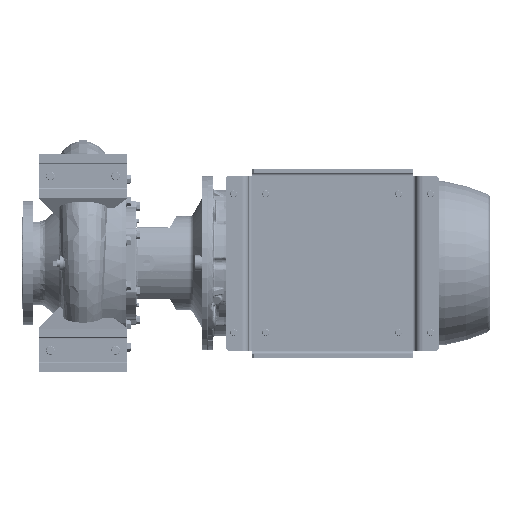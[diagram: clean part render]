
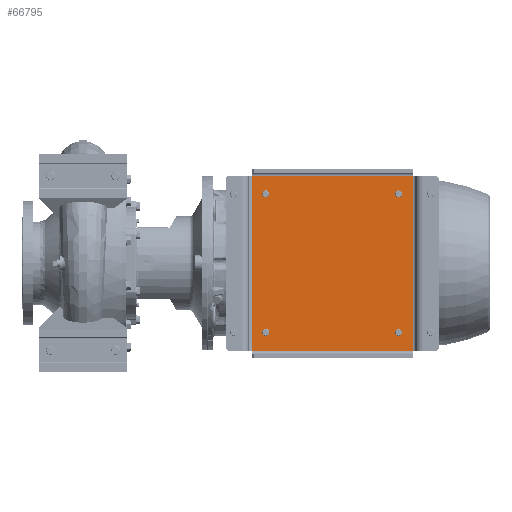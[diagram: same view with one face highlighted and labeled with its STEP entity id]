
A CAD part, front view. The second image highlights one B-rep face of the part: STEP entity #66795.
In plain terms, the highlighted planar face has unit normal (0, -1, 0).
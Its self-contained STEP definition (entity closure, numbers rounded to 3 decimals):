
#1142 = FACE_OUTER_BOUND ( 'NONE', #51474, .T. ) ;
#2143 = AXIS2_PLACEMENT_3D ( 'NONE', #155691, #220284, #22259 ) ;
#3183 = ORIENTED_EDGE ( 'NONE', *, *, #11422, .T. ) ;
#3463 = CIRCLE ( 'NONE', #40952, 8. ) ;
#3988 = LINE ( 'NONE', #93429, #32850 ) ;
#5013 = CARTESIAN_POINT ( 'NONE',  ( 396.5, 71., -384. ) ) ;
#7948 = LINE ( 'NONE', #53405, #277027 ) ;
#9065 = CARTESIAN_POINT ( 'NONE',  ( 91.5, 71., -384. ) ) ;
#10754 = DIRECTION ( 'NONE',  ( 0., 1., 0. ) ) ;
#11422 = EDGE_CURVE ( 'NONE', #232146, #231091, #238858, .T. ) ;
#14833 = DIRECTION ( 'NONE',  ( 0., 0., -1. ) ) ;
#20197 = DIRECTION ( 'NONE',  ( 1., 0., 0. ) ) ;
#22259 = DIRECTION ( 'NONE',  ( 0., 0., -1. ) ) ;
#22339 = ORIENTED_EDGE ( 'NONE', *, *, #261013, .T. ) ;
#23344 = CARTESIAN_POINT ( 'NONE',  ( 396.5, 71., -66. ) ) ;
#29458 = VERTEX_POINT ( 'NONE', #9065 ) ;
#30614 = ORIENTED_EDGE ( 'NONE', *, *, #206395, .T. ) ;
#32850 = VECTOR ( 'NONE', #20197, 1000. ) ;
#36273 = CIRCLE ( 'NONE', #83179, 8. ) ;
#38437 = VERTEX_POINT ( 'NONE', #263984 ) ;
#39024 = CARTESIAN_POINT ( 'NONE',  ( 396.5, 71., -58. ) ) ;
#39657 = CIRCLE ( 'NONE', #2143, 8. ) ;
#40952 = AXIS2_PLACEMENT_3D ( 'NONE', #100919, #103795, #282716 ) ;
#44022 = EDGE_CURVE ( 'NONE', #38437, #59048, #3463, .T. ) ;
#44908 = EDGE_CURVE ( 'NONE', #229506, #73636, #186227, .T. ) ;
#51474 = EDGE_LOOP ( 'NONE', ( #151467, #3183, #70653, #98998 ) ) ;
#53405 = CARTESIAN_POINT ( 'NONE',  ( 429., 71., -16. ) ) ;
#53870 = ORIENTED_EDGE ( 'NONE', *, *, #217844, .T. ) ;
#59048 = VERTEX_POINT ( 'NONE', #222691 ) ;
#59151 = DIRECTION ( 'NONE',  ( 0., 0., -1. ) ) ;
#61185 = ORIENTED_EDGE ( 'NONE', *, *, #275663, .T. ) ;
#62022 = CARTESIAN_POINT ( 'NONE',  ( 396.5, 71., -376. ) ) ;
#65688 = DIRECTION ( 'NONE',  ( 0., 1., 0. ) ) ;
#66795 = ADVANCED_FACE ( 'NONE', ( #1142, #106854, #175769, #218334, #285750 ), #150854, .T. ) ;
#67332 = CARTESIAN_POINT ( 'NONE',  ( 429., 71., -418. ) ) ;
#70653 = ORIENTED_EDGE ( 'NONE', *, *, #234781, .T. ) ;
#73636 = VERTEX_POINT ( 'NONE', #23344 ) ;
#76880 = DIRECTION ( 'NONE',  ( -1., 0., 0. ) ) ;
#83179 = AXIS2_PLACEMENT_3D ( 'NONE', #62022, #110312, #129449 ) ;
#86074 = CARTESIAN_POINT ( 'NONE',  ( 91.5, 71., -376. ) ) ;
#88169 = AXIS2_PLACEMENT_3D ( 'NONE', #174307, #263777, #219758 ) ;
#93429 = CARTESIAN_POINT ( 'NONE',  ( 429., 71., -418. ) ) ;
#97849 = VECTOR ( 'NONE', #216859, 1000. ) ;
#98998 = ORIENTED_EDGE ( 'NONE', *, *, #137402, .T. ) ;
#100402 = VERTEX_POINT ( 'NONE', #203422 ) ;
#100919 = CARTESIAN_POINT ( 'NONE',  ( 91.5, 71., -58. ) ) ;
#103795 = DIRECTION ( 'NONE',  ( 0., 1., 0. ) ) ;
#103909 = AXIS2_PLACEMENT_3D ( 'NONE', #39024, #153336, #242814 ) ;
#106854 = FACE_BOUND ( 'NONE', #219051, .T. ) ;
#110312 = DIRECTION ( 'NONE',  ( 0., 1., 0. ) ) ;
#129370 = ORIENTED_EDGE ( 'NONE', *, *, #247362, .T. ) ;
#129449 = DIRECTION ( 'NONE',  ( 0., 0., -1. ) ) ;
#129478 = CIRCLE ( 'NONE', #148136, 8. ) ;
#130605 = DIRECTION ( 'NONE',  ( 0., 1., 0. ) ) ;
#137402 = EDGE_CURVE ( 'NONE', #194986, #222630, #7948, .T. ) ;
#138028 = EDGE_CURVE ( 'NONE', #73636, #229506, #244362, .T. ) ;
#140542 = EDGE_CURVE ( 'NONE', #222630, #232146, #167754, .T. ) ;
#148136 = AXIS2_PLACEMENT_3D ( 'NONE', #86074, #174077, #194626 ) ;
#149007 = EDGE_LOOP ( 'NONE', ( #61185, #53870 ) ) ;
#150854 = PLANE ( 'NONE',  #88169 ) ;
#151467 = ORIENTED_EDGE ( 'NONE', *, *, #140542, .T. ) ;
#152781 = AXIS2_PLACEMENT_3D ( 'NONE', #270934, #65688, #156555 ) ;
#153336 = DIRECTION ( 'NONE',  ( 0., 1., 0. ) ) ;
#155691 = CARTESIAN_POINT ( 'NONE',  ( 91.5, 71., -58. ) ) ;
#156555 = DIRECTION ( 'NONE',  ( 0., 0., -1. ) ) ;
#157391 = CIRCLE ( 'NONE', #152781, 8. ) ;
#162174 = AXIS2_PLACEMENT_3D ( 'NONE', #214291, #130605, #14833 ) ;
#164973 = CARTESIAN_POINT ( 'NONE',  ( 91.5, 71., -368. ) ) ;
#167754 = LINE ( 'NONE', #188284, #216977 ) ;
#172195 = CARTESIAN_POINT ( 'NONE',  ( 429., 71., -16. ) ) ;
#174077 = DIRECTION ( 'NONE',  ( 0., 1., 0. ) ) ;
#174307 = CARTESIAN_POINT ( 'NONE',  ( 0., 71., 0. ) ) ;
#175769 = FACE_BOUND ( 'NONE', #149007, .T. ) ;
#177042 = EDGE_LOOP ( 'NONE', ( #177584, #278275 ) ) ;
#177584 = ORIENTED_EDGE ( 'NONE', *, *, #44908, .T. ) ;
#186227 = CIRCLE ( 'NONE', #270607, 8. ) ;
#187176 = VERTEX_POINT ( 'NONE', #164973 ) ;
#188284 = CARTESIAN_POINT ( 'NONE',  ( 59., 71., -16. ) ) ;
#194626 = DIRECTION ( 'NONE',  ( 0., 0., -1. ) ) ;
#194832 = CIRCLE ( 'NONE', #162174, 8. ) ;
#194986 = VERTEX_POINT ( 'NONE', #67332 ) ;
#203422 = CARTESIAN_POINT ( 'NONE',  ( 396.5, 71., -368. ) ) ;
#204574 = CARTESIAN_POINT ( 'NONE',  ( 59., 71., -418. ) ) ;
#206395 = EDGE_CURVE ( 'NONE', #187176, #29458, #194832, .T. ) ;
#214291 = CARTESIAN_POINT ( 'NONE',  ( 91.5, 71., -376. ) ) ;
#216859 = DIRECTION ( 'NONE',  ( 0., 0., -1. ) ) ;
#216977 = VECTOR ( 'NONE', #76880, 1000. ) ;
#217844 = EDGE_CURVE ( 'NONE', #288863, #100402, #157391, .T. ) ;
#218334 = FACE_BOUND ( 'NONE', #227501, .T. ) ;
#219051 = EDGE_LOOP ( 'NONE', ( #225445, #22339 ) ) ;
#219758 = DIRECTION ( 'NONE',  ( 0., 0., -1. ) ) ;
#220284 = DIRECTION ( 'NONE',  ( 0., 1., 0. ) ) ;
#222630 = VERTEX_POINT ( 'NONE', #172195 ) ;
#222691 = CARTESIAN_POINT ( 'NONE',  ( 91.5, 71., -66. ) ) ;
#225445 = ORIENTED_EDGE ( 'NONE', *, *, #44022, .T. ) ;
#227501 = EDGE_LOOP ( 'NONE', ( #30614, #129370 ) ) ;
#229506 = VERTEX_POINT ( 'NONE', #280629 ) ;
#231091 = VERTEX_POINT ( 'NONE', #246580 ) ;
#232146 = VERTEX_POINT ( 'NONE', #289886 ) ;
#234781 = EDGE_CURVE ( 'NONE', #231091, #194986, #3988, .T. ) ;
#238858 = LINE ( 'NONE', #204574, #97849 ) ;
#242814 = DIRECTION ( 'NONE',  ( 0., 0., -1. ) ) ;
#244362 = CIRCLE ( 'NONE', #103909, 8. ) ;
#246580 = CARTESIAN_POINT ( 'NONE',  ( 59., 71., -418. ) ) ;
#247362 = EDGE_CURVE ( 'NONE', #29458, #187176, #129478, .T. ) ;
#260061 = CARTESIAN_POINT ( 'NONE',  ( 396.5, 71., -58. ) ) ;
#261013 = EDGE_CURVE ( 'NONE', #59048, #38437, #39657, .T. ) ;
#263777 = DIRECTION ( 'NONE',  ( 0., -1., 0. ) ) ;
#263984 = CARTESIAN_POINT ( 'NONE',  ( 91.5, 71., -50. ) ) ;
#270607 = AXIS2_PLACEMENT_3D ( 'NONE', #260061, #10754, #59151 ) ;
#270934 = CARTESIAN_POINT ( 'NONE',  ( 396.5, 71., -376. ) ) ;
#275663 = EDGE_CURVE ( 'NONE', #100402, #288863, #36273, .T. ) ;
#276285 = DIRECTION ( 'NONE',  ( 0., 0., 1. ) ) ;
#277027 = VECTOR ( 'NONE', #276285, 1000. ) ;
#278275 = ORIENTED_EDGE ( 'NONE', *, *, #138028, .T. ) ;
#280629 = CARTESIAN_POINT ( 'NONE',  ( 396.5, 71., -50. ) ) ;
#282716 = DIRECTION ( 'NONE',  ( 0., 0., -1. ) ) ;
#285750 = FACE_BOUND ( 'NONE', #177042, .T. ) ;
#288863 = VERTEX_POINT ( 'NONE', #5013 ) ;
#289886 = CARTESIAN_POINT ( 'NONE',  ( 59., 71., -16. ) ) ;
